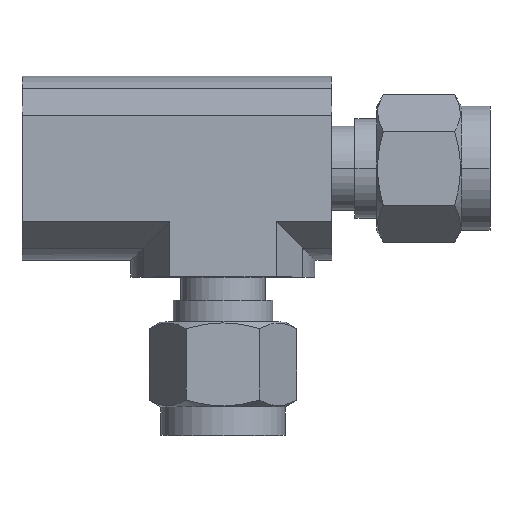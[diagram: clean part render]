
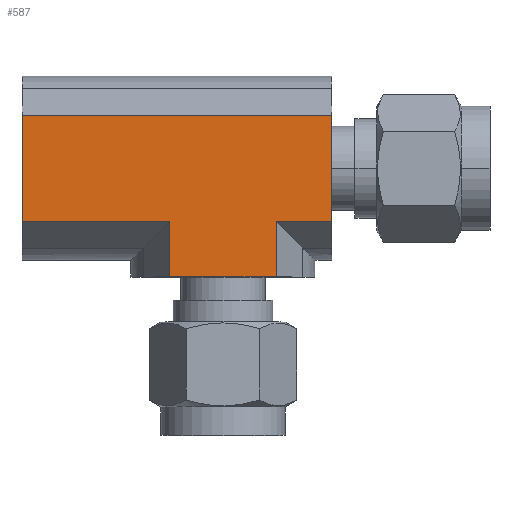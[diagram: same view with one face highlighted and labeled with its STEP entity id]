
A CAD part, top view. The second image highlights one B-rep face of the part: STEP entity #587.
In plain terms, the highlighted planar face has unit normal (0, 0, 1).
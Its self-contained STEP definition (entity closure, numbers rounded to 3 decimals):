
#347 = VERTEX_POINT ( 'NONE', #1468 ) ;
#349 = EDGE_CURVE ( 'NONE', #347, #350, #1467, .T. ) ;
#350 = VERTEX_POINT ( 'NONE', #1463 ) ;
#404 = VERTEX_POINT ( 'NONE', #1785 ) ;
#415 = EDGE_CURVE ( 'NONE', #350, #404, #1773, .T. ) ;
#420 = VERTEX_POINT ( 'NONE', #1759 ) ;
#423 = EDGE_CURVE ( 'NONE', #420, #428, #1757, .T. ) ;
#428 = VERTEX_POINT ( 'NONE', #1747 ) ;
#451 = VERTEX_POINT ( 'NONE', #1715 ) ;
#453 = EDGE_CURVE ( 'NONE', #451, #454, #1714, .T. ) ;
#454 = VERTEX_POINT ( 'NONE', #1710 ) ;
#542 = ORIENTED_EDGE ( 'NONE', *, *, #543, .T. ) ;
#543 = EDGE_CURVE ( 'NONE', #451, #404, #2212, .T. ) ;
#544 = ORIENTED_EDGE ( 'NONE', *, *, #415, .F. ) ;
#545 = ORIENTED_EDGE ( 'NONE', *, *, #349, .F. ) ;
#546 = ORIENTED_EDGE ( 'NONE', *, *, #585, .T. ) ;
#548 = ORIENTED_EDGE ( 'NONE', *, *, #549, .F. ) ;
#549 = EDGE_CURVE ( 'NONE', #428, #613, #2145, .T. ) ;
#585 = EDGE_CURVE ( 'NONE', #347, #613, #1896, .T. ) ;
#587 = ADVANCED_FACE ( 'NONE', ( #2114 ), #2056, .F. ) ;
#588 = EDGE_LOOP ( 'NONE', ( #589, #590, #745, #542, #544, #545, #546, #548 ) ) ;
#589 = ORIENTED_EDGE ( 'NONE', *, *, #423, .F. ) ;
#590 = ORIENTED_EDGE ( 'NONE', *, *, #744, .F. ) ;
#613 = VERTEX_POINT ( 'NONE', #2032 ) ;
#744 = EDGE_CURVE ( 'NONE', #454, #420, #2377, .T. ) ;
#745 = ORIENTED_EDGE ( 'NONE', *, *, #453, .F. ) ;
#1463 = CARTESIAN_POINT ( 'NONE',  ( 12.17, -5.947, 10.3 ) ) ;
#1464 = DIRECTION ( 'NONE',  ( 0., -1., 0. ) ) ;
#1465 = VECTOR ( 'NONE', #1464, 1000. ) ;
#1466 = CARTESIAN_POINT ( 'NONE',  ( 12.17, 5.947, 10.3 ) ) ;
#1467 = LINE ( 'NONE', #1466, #1465 ) ;
#1468 = CARTESIAN_POINT ( 'NONE',  ( 12.17, 5.947, 10.3 ) ) ;
#1710 = CARTESIAN_POINT ( 'NONE',  ( -5.947, -12.17, 10.3 ) ) ;
#1711 = DIRECTION ( 'NONE',  ( -1., 0., 0. ) ) ;
#1712 = VECTOR ( 'NONE', #1711, 1000. ) ;
#1713 = CARTESIAN_POINT ( 'NONE',  ( 5.947, -12.17, 10.3 ) ) ;
#1714 = LINE ( 'NONE', #1713, #1712 ) ;
#1715 = CARTESIAN_POINT ( 'NONE',  ( 5.947, -12.17, 10.3 ) ) ;
#1747 = CARTESIAN_POINT ( 'NONE',  ( -22.5, -5.947, 10.3 ) ) ;
#1754 = DIRECTION ( 'NONE',  ( -1., 0., 0. ) ) ;
#1755 = VECTOR ( 'NONE', #1754, 1000. ) ;
#1756 = CARTESIAN_POINT ( 'NONE',  ( 12.17, -5.947, 10.3 ) ) ;
#1757 = LINE ( 'NONE', #1756, #1755 ) ;
#1759 = CARTESIAN_POINT ( 'NONE',  ( -5.947, -5.947, 10.3 ) ) ;
#1770 = DIRECTION ( 'NONE',  ( -1., 0., 0. ) ) ;
#1771 = VECTOR ( 'NONE', #1770, 1000. ) ;
#1772 = CARTESIAN_POINT ( 'NONE',  ( 12.17, -5.947, 10.3 ) ) ;
#1773 = LINE ( 'NONE', #1772, #1771 ) ;
#1785 = CARTESIAN_POINT ( 'NONE',  ( 5.947, -5.947, 10.3 ) ) ;
#1894 = DIRECTION ( 'NONE',  ( -1., 0., 0. ) ) ;
#1895 = CARTESIAN_POINT ( 'NONE',  ( 12.17, 5.947, 10.3 ) ) ;
#1896 = LINE ( 'NONE', #1895, #2115 ) ;
#2032 = CARTESIAN_POINT ( 'NONE',  ( -22.5, 5.947, 10.3 ) ) ;
#2055 = AXIS2_PLACEMENT_3D ( 'NONE', #2062, #2061, #2060 ) ;
#2056 = PLANE ( 'NONE',  #2055 ) ;
#2060 = DIRECTION ( 'NONE',  ( 0., 1., 0. ) ) ;
#2061 = DIRECTION ( 'NONE',  ( 0., 0., -1. ) ) ;
#2062 = CARTESIAN_POINT ( 'NONE',  ( 12.17, 5.947, 10.3 ) ) ;
#2114 = FACE_OUTER_BOUND ( 'NONE', #588, .T. ) ;
#2115 = VECTOR ( 'NONE', #1894, 1000. ) ;
#2142 = DIRECTION ( 'NONE',  ( 0., 1., 0. ) ) ;
#2143 = VECTOR ( 'NONE', #2142, 1000. ) ;
#2144 = CARTESIAN_POINT ( 'NONE',  ( -22.5, -5.947, 10.3 ) ) ;
#2145 = LINE ( 'NONE', #2144, #2143 ) ;
#2146 = DIRECTION ( 'NONE',  ( 0., 1., 0. ) ) ;
#2210 = VECTOR ( 'NONE', #2146, 1000. ) ;
#2211 = CARTESIAN_POINT ( 'NONE',  ( 5.947, -12.17, 10.3 ) ) ;
#2212 = LINE ( 'NONE', #2211, #2210 ) ;
#2377 = LINE ( 'NONE', #2491, #2490 ) ;
#2489 = DIRECTION ( 'NONE',  ( 0., 1., 0. ) ) ;
#2490 = VECTOR ( 'NONE', #2489, 1000. ) ;
#2491 = CARTESIAN_POINT ( 'NONE',  ( -5.947, -12.17, 10.3 ) ) ;
